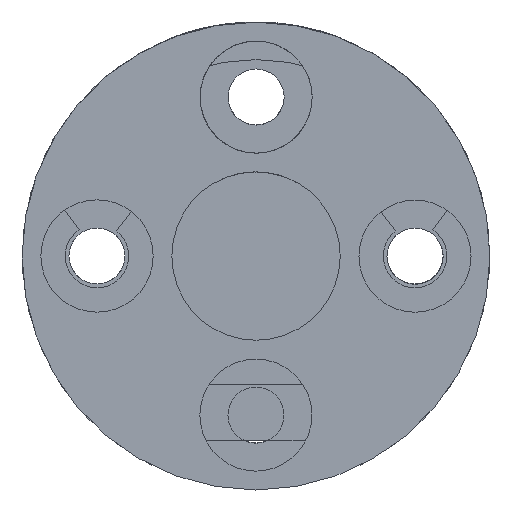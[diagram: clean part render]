
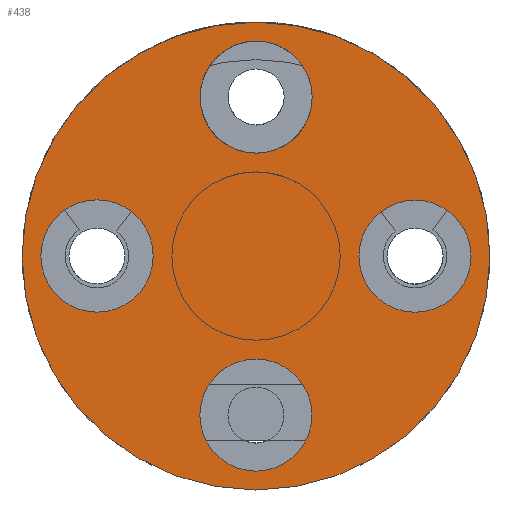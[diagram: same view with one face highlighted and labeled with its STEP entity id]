
A CAD part, front view. The second image highlights one B-rep face of the part: STEP entity #438.
In plain terms, the highlighted planar face has unit normal (0, -1, 0).
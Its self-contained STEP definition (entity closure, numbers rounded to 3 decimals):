
#438 = ADVANCED_FACE ( 'NONE', ( #6556, #6565, #6567, #6569, #6554 ), #1665, .F. ) ;
#903 = CARTESIAN_POINT ( 'NONE',  ( 8.499, 0., -2.995 ) ) ;
#905 = CARTESIAN_POINT ( 'NONE',  ( -8.499, 0., -3.001 ) ) ;
#908 = CARTESIAN_POINT ( 'NONE',  ( 0., 0., 12.505 ) ) ;
#917 = CARTESIAN_POINT ( 'NONE',  ( 8.499, 0., 2.995 ) ) ;
#933 = CARTESIAN_POINT ( 'NONE',  ( 0., 0., -12.505 ) ) ;
#934 = CARTESIAN_POINT ( 'NONE',  ( 0., 0., -5.504 ) ) ;
#949 = CARTESIAN_POINT ( 'NONE',  ( -8.499, 0., 3.001 ) ) ;
#966 = CARTESIAN_POINT ( 'NONE',  ( 0., 0., 11.496 ) ) ;
#972 = CARTESIAN_POINT ( 'NONE',  ( 0., 0., 5.502 ) ) ;
#973 = CARTESIAN_POINT ( 'NONE',  ( 0., 0., -11.495 ) ) ;
#1035 = VERTEX_POINT ( 'NONE', #933 ) ;
#1044 = VERTEX_POINT ( 'NONE', #908 ) ;
#1051 = VERTEX_POINT ( 'NONE', #966 ) ;
#1061 = VERTEX_POINT ( 'NONE', #917 ) ;
#1062 = VERTEX_POINT ( 'NONE', #934 ) ;
#1064 = VERTEX_POINT ( 'NONE', #903 ) ;
#1065 = VERTEX_POINT ( 'NONE', #905 ) ;
#1101 = VERTEX_POINT ( 'NONE', #972 ) ;
#1104 = VERTEX_POINT ( 'NONE', #949 ) ;
#1106 = VERTEX_POINT ( 'NONE', #973 ) ;
#1317 = EDGE_LOOP ( 'NONE', ( #6336, #6337 ) ) ;
#1319 = EDGE_LOOP ( 'NONE', ( #6332, #6333 ) ) ;
#1322 = EDGE_LOOP ( 'NONE', ( #6334, #6335 ) ) ;
#1665 = PLANE ( 'NONE',  #6253 ) ;
#1683 = CARTESIAN_POINT ( 'NONE',  ( 0., 0., 0. ) ) ;
#1763 = DIRECTION ( 'NONE',  ( 0., 0., 1. ) ) ;
#1785 = DIRECTION ( 'NONE',  ( 0., 1., 0. ) ) ;
#2821 = AXIS2_PLACEMENT_3D ( 'NONE', #3260, #3261, #3262 ) ;
#2823 = AXIS2_PLACEMENT_3D ( 'NONE', #3270, #3271, #3272 ) ;
#2825 = AXIS2_PLACEMENT_3D ( 'NONE', #3315, #3316, #3317 ) ;
#2828 = AXIS2_PLACEMENT_3D ( 'NONE', #3328, #3331, #3332 ) ;
#2837 = AXIS2_PLACEMENT_3D ( 'NONE', #3430, #3433, #3434 ) ;
#2846 = AXIS2_PLACEMENT_3D ( 'NONE', #3549, #3551, #3552 ) ;
#2850 = AXIS2_PLACEMENT_3D ( 'NONE', #3527, #3528, #3529 ) ;
#2854 = AXIS2_PLACEMENT_3D ( 'NONE', #3536, #3543, #3544 ) ;
#2855 = AXIS2_PLACEMENT_3D ( 'NONE', #3539, #3545, #3546 ) ;
#2856 = AXIS2_PLACEMENT_3D ( 'NONE', #3542, #3547, #3548 ) ;
#3260 = CARTESIAN_POINT ( 'NONE',  ( 0., 0., -8.499 ) ) ;
#3261 = DIRECTION ( 'NONE',  ( 0., -1., 0. ) ) ;
#3262 = DIRECTION ( 'NONE',  ( 0., 0., -1. ) ) ;
#3270 = CARTESIAN_POINT ( 'NONE',  ( 8.499, 0., 0. ) ) ;
#3271 = DIRECTION ( 'NONE',  ( 0., -1., 0. ) ) ;
#3272 = DIRECTION ( 'NONE',  ( 0., 0., -1. ) ) ;
#3315 = CARTESIAN_POINT ( 'NONE',  ( -8.499, 0., 0. ) ) ;
#3316 = DIRECTION ( 'NONE',  ( 0., -1., 0. ) ) ;
#3317 = DIRECTION ( 'NONE',  ( 0., 0., -1. ) ) ;
#3328 = CARTESIAN_POINT ( 'NONE',  ( 0., 0., 8.499 ) ) ;
#3331 = DIRECTION ( 'NONE',  ( 0., -1., 0. ) ) ;
#3332 = DIRECTION ( 'NONE',  ( 0., 0., -1. ) ) ;
#3430 = CARTESIAN_POINT ( 'NONE',  ( 0., 0., 0. ) ) ;
#3433 = DIRECTION ( 'NONE',  ( 0., 1., 0. ) ) ;
#3434 = DIRECTION ( 'NONE',  ( 0., 0., 1. ) ) ;
#3527 = CARTESIAN_POINT ( 'NONE',  ( 0., 0., 0. ) ) ;
#3528 = DIRECTION ( 'NONE',  ( 0., 1., 0. ) ) ;
#3529 = DIRECTION ( 'NONE',  ( 0., 0., 1. ) ) ;
#3536 = CARTESIAN_POINT ( 'NONE',  ( 0., 0., 8.499 ) ) ;
#3539 = CARTESIAN_POINT ( 'NONE',  ( -8.499, 0., 0. ) ) ;
#3542 = CARTESIAN_POINT ( 'NONE',  ( 0., 0., -8.499 ) ) ;
#3543 = DIRECTION ( 'NONE',  ( 0., -1., 0. ) ) ;
#3544 = DIRECTION ( 'NONE',  ( 0., 0., -1. ) ) ;
#3545 = DIRECTION ( 'NONE',  ( 0., -1., 0. ) ) ;
#3546 = DIRECTION ( 'NONE',  ( 0., 0., -1. ) ) ;
#3547 = DIRECTION ( 'NONE',  ( 0., -1., 0. ) ) ;
#3548 = DIRECTION ( 'NONE',  ( 0., 0., -1. ) ) ;
#3549 = CARTESIAN_POINT ( 'NONE',  ( 8.499, 0., 0. ) ) ;
#3551 = DIRECTION ( 'NONE',  ( 0., -1., 0. ) ) ;
#3552 = DIRECTION ( 'NONE',  ( 0., 0., -1. ) ) ;
#3700 = CIRCLE ( 'NONE', #2821, 2.995 ) ;
#3706 = CIRCLE ( 'NONE', #2823, 2.995 ) ;
#3733 = CIRCLE ( 'NONE', #2825, 3.001 ) ;
#3742 = CIRCLE ( 'NONE', #2828, 2.997 ) ;
#3758 = CIRCLE ( 'NONE', #2837, 12.505 ) ;
#3774 = CIRCLE ( 'NONE', #2850, 12.505 ) ;
#3781 = CIRCLE ( 'NONE', #2854, 2.997 ) ;
#3783 = CIRCLE ( 'NONE', #2855, 3.001 ) ;
#3784 = CIRCLE ( 'NONE', #2856, 2.995 ) ;
#3785 = CIRCLE ( 'NONE', #2846, 2.995 ) ;
#4996 = EDGE_LOOP ( 'NONE', ( #6330, #6331 ) ) ;
#5222 = EDGE_LOOP ( 'NONE', ( #6338, #6339 ) ) ;
#6095 = EDGE_CURVE ( 'NONE', #1062, #1106, #3700, .T. ) ;
#6099 = EDGE_CURVE ( 'NONE', #1061, #1064, #3706, .T. ) ;
#6117 = EDGE_CURVE ( 'NONE', #1104, #1065, #3733, .T. ) ;
#6123 = EDGE_CURVE ( 'NONE', #1051, #1101, #3742, .T. ) ;
#6137 = EDGE_CURVE ( 'NONE', #1044, #1035, #3758, .T. ) ;
#6155 = EDGE_CURVE ( 'NONE', #1035, #1044, #3774, .T. ) ;
#6160 = EDGE_CURVE ( 'NONE', #1101, #1051, #3781, .T. ) ;
#6161 = EDGE_CURVE ( 'NONE', #1065, #1104, #3783, .T. ) ;
#6162 = EDGE_CURVE ( 'NONE', #1106, #1062, #3784, .T. ) ;
#6163 = EDGE_CURVE ( 'NONE', #1064, #1061, #3785, .T. ) ;
#6253 = AXIS2_PLACEMENT_3D ( 'NONE', #1683, #1785, #1763 ) ;
#6330 = ORIENTED_EDGE ( 'NONE', *, *, #6162, .F. ) ;
#6331 = ORIENTED_EDGE ( 'NONE', *, *, #6095, .F. ) ;
#6332 = ORIENTED_EDGE ( 'NONE', *, *, #6163, .F. ) ;
#6333 = ORIENTED_EDGE ( 'NONE', *, *, #6099, .F. ) ;
#6334 = ORIENTED_EDGE ( 'NONE', *, *, #6161, .F. ) ;
#6335 = ORIENTED_EDGE ( 'NONE', *, *, #6117, .F. ) ;
#6336 = ORIENTED_EDGE ( 'NONE', *, *, #6160, .F. ) ;
#6337 = ORIENTED_EDGE ( 'NONE', *, *, #6123, .F. ) ;
#6338 = ORIENTED_EDGE ( 'NONE', *, *, #6155, .F. ) ;
#6339 = ORIENTED_EDGE ( 'NONE', *, *, #6137, .F. ) ;
#6554 = FACE_OUTER_BOUND ( 'NONE', #5222, .T. ) ;
#6556 = FACE_BOUND ( 'NONE', #4996, .T. ) ;
#6565 = FACE_BOUND ( 'NONE', #1319, .T. ) ;
#6567 = FACE_BOUND ( 'NONE', #1322, .T. ) ;
#6569 = FACE_BOUND ( 'NONE', #1317, .T. ) ;
